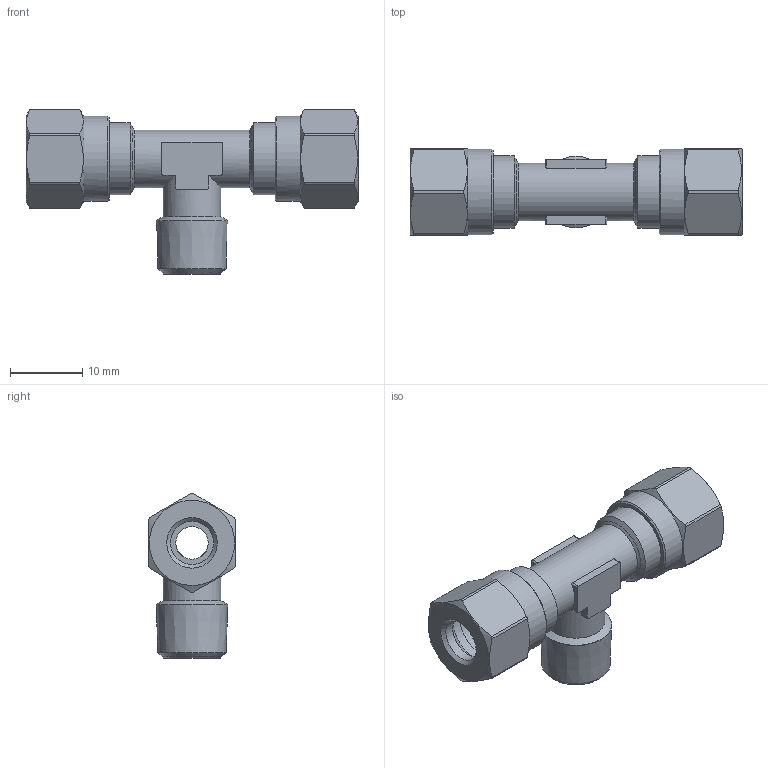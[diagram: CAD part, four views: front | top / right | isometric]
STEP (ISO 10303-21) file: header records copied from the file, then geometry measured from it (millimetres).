
FILE_DESCRIPTION(('Bauteilbeschreibung','HiCAD-Model','HiCAD-STEP-TRANSLATION','Bauteilbeschreibung'),'2;1');
FILE_NAME('B:/ABGLEICH/ZEICHNUNGEN/STEP FÜR INTERNET/STEP/207/92202_207_6_1-8.STP','2011-10-17T14:03:35+00:00',('Konstrukteur'),('Konstrukteur Firma GmbH'),' HiCAD neXt 2008, Step 3.1.1401.2J ','HiCAD neXt 2008','confidential');
FILE_SCHEMA(('AUTOMOTIVE_DESIGN { 1 2 10303 214 0 1 1 1 }'));
Length unit declared in the file: millimetre
Products named in the file (12): A2202_207_6_1_8; A2201; A22010; DIN 13_M10X1; DIN0130M10X1; R 1_8; A6802; A68020; DIN0130M10X10; A68021; A68022; DIN0130M10X11
Assembly tree (11 placements, depth 3):
  A2202_207_6_1_8
    A2201
    A22010
      DIN 13_M10X1
      DIN0130M10X1
      R 1_8
    A6802
    A68020
      DIN0130M10X10
    A68021
    A68022
      DIN0130M10X11
Bounding box: 46 x 12 x 22.82 mm (x, y, z)
Volume: 3197 mm3; surface area: 5818.9 mm2
Topology: 8 solids, 8 shells, 131 faces, 326 edges, 208 vertices
Faces by surface type: cylinder 54, plane 45, cone 32
Full cylindrical faces by diameter (mm): 4.5 x2, 6 x5, 8 x2, 8.773 x8, 9.884 x1, 10 x6, 11.8 x2
Entity records: 7646 total; most frequent: CARTESIAN_POINT 3424, DIRECTION 628, ORIENTED_EDGE 492, AXIS2_PLACEMENT_3D 273, EDGE_CURVE 246, COLOUR_RGB 234, PRESENTATION_STYLE_ASSIGNMENT 234, CURVE_STYLE 226
